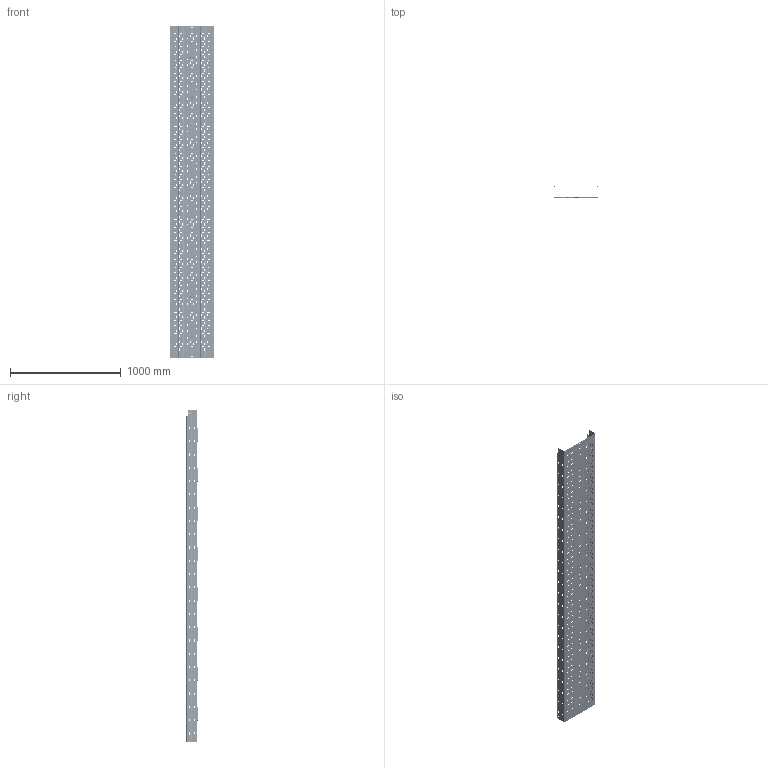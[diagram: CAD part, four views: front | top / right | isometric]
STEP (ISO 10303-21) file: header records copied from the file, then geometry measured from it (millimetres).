
FILE_DESCRIPTION (( 'STEP AP203' ), '1' );
FILE_NAME ('ERE 400x100 400x100.step', '2023-07-27T17:02:08', ( '' ), ( '' ), 'SwSTEP 2.0', 'SolidWorks 2022', '' );
FILE_SCHEMA (( 'CONFIG_CONTROL_DESIGN' ));
Products named in the file (1): ERE 400x100 400x100
Bounding box: 400 x 100.8 x 3000 mm (x, y, z)
Surface area: 3501442.2 mm2 (no closed solid volume)
Topology: 0 solids, 3 shells, 13957 faces, 41126 edges, 27244 vertices
Faces by surface type: plane 11648, cylinder 2143, torus 68, cone 54, bspline 40, sphere 4
Entity records: 462246 total; most frequent: CARTESIAN_POINT 83251, ORIENTED_EDGE 81933, DIRECTION 73302, EDGE_CURVE 41117, VECTOR 36468, LINE 36468, VERTEX_POINT 27244, AXIS2_PLACEMENT_3D 18417
